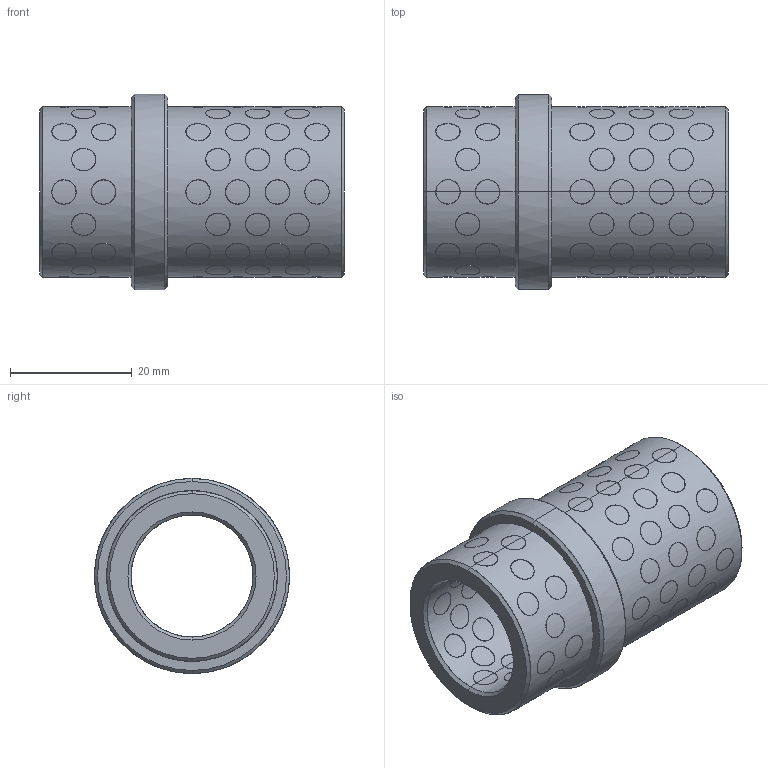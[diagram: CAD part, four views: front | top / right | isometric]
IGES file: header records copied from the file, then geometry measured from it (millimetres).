
Start section: START RECORD GO HERE.
Global section: file name: G4022035.igs; native system: DASSAULT SYSTEMES CATIA V5 R20 - www.3ds.com; preprocessor: CATIA Version 5 Release 20 ; author: r.borello; organization: CFTORINO; date: 20190624.143938; units: millimetre
Bounding box: 50 x 32 x 32 mm (x, y, z)
Surface area: 16446.8 mm2 (no closed solid volume)
Topology: 0 solids, 0 shells, 528 faces, 2304 edges, 2304 vertices
Faces by surface type: revolution 524, plane 4
